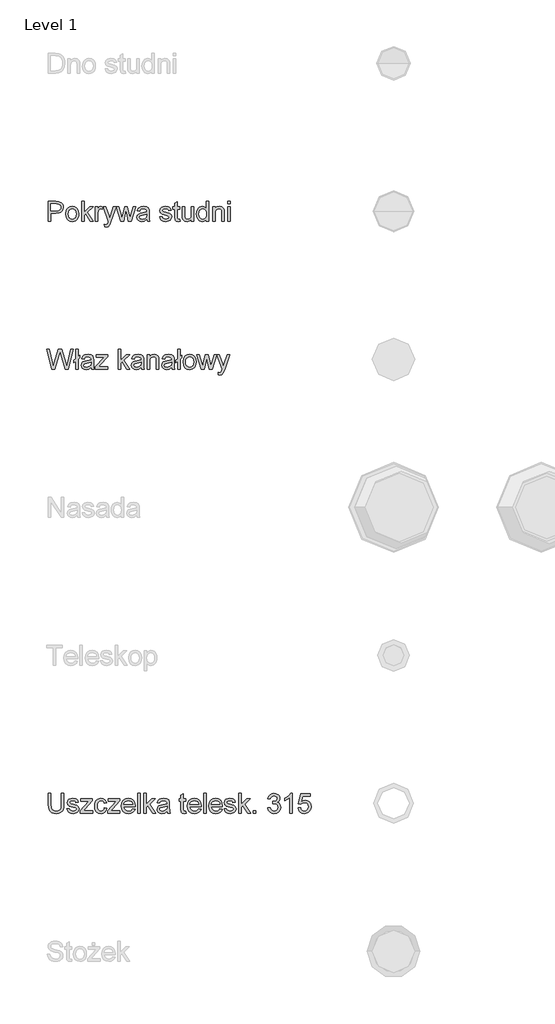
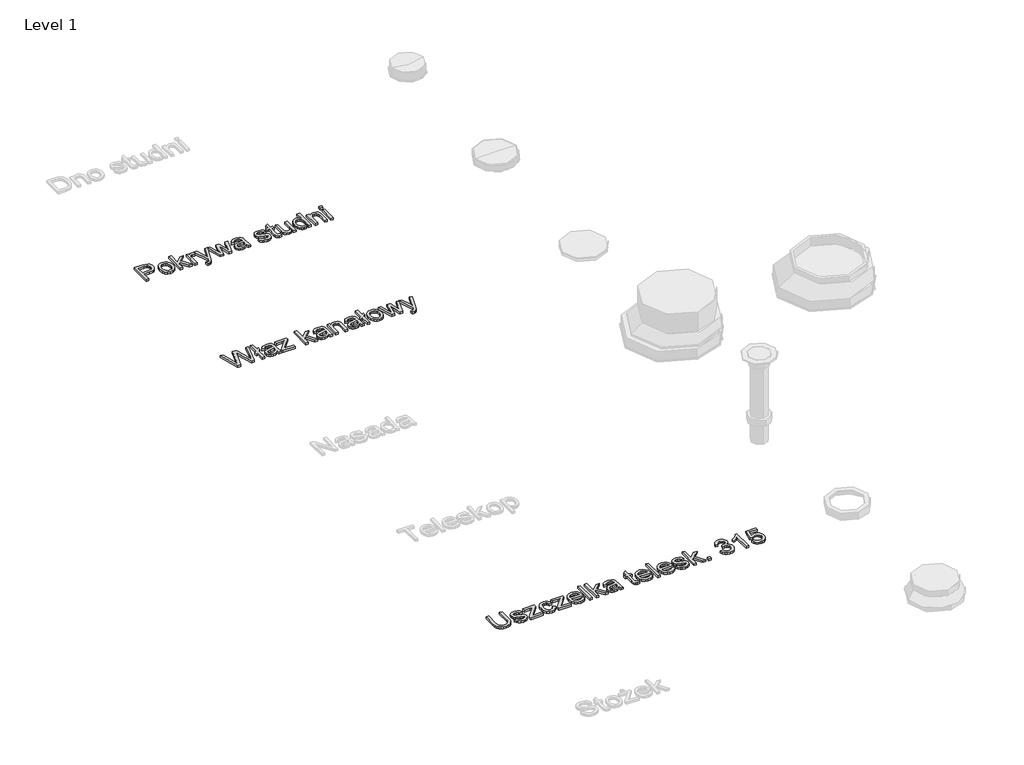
# One storey, part 3 of 8: 3 proxies.
"""IFC4 building model written with IfcOpenShell, lengths in millimetres."""

from ifc_helpers import new_model, si_unit, origin, origin_with_axes, place, context, project, spatial, polyline, outline, extrude, element, save

model = new_model("IFC4")

# Units and contexts
model_context = context("Model", 3, world=origin())
ifc_project = project(units=[si_unit("LENGTHUNIT", "METRE", prefix="MILLI")], contexts=[model_context])

# Site, building, storey
site = spatial("IfcSite", under=ifc_project)
building = spatial("IfcBuilding", under=site)
storey = spatial("IfcBuildingStorey", under=building, Name="Level 1", Elevation=0.0)

# Proxies
placement = place(None, origin())
element("IfcBuildingElementProxy", 1, Name="200mm Arial", ObjectType="200mm Arial", at=placement, inside=storey, context=model_context, shape_type="SweptSolid", body=[
    extrude(outline(polyline([(-16830.6923074, -17513.949573), (-16830.6923074, -17313.0369527), (-16756.2329915, -17313.0369527), (-16726.2138207, -17314.949939), (-16701.8109817, -17324.3431926), (-16692.9388943, -17332.6695885), (-16685.9920559, -17343.767362), (-16681.5038956, -17356.8578296), (-16680.0078421, -17371.1623079), (-16684.0484127, -17394.8416456), (-16696.1701245, -17414.5723833), (-16705.8776106, -17422.3408248), (-16718.8377867, -17427.8897115), (-16754.5162089, -17432.328821), (-16805.5782298, -17432.328821), (-16805.5782298, -17513.949573), (-16830.6923074, -17513.949573)]), holes=[polyline([(-16805.5782298, -17407.2147434), (-16753.0446809, -17407.2147434), (-16730.7755575, -17404.9093496), (-16716.0602777, -17397.9931681), (-16707.8565092, -17386.8953946), (-16705.1219197, -17372.0452247), (-16706.7344691, -17360.7635102), (-16711.5721173, -17351.2476292), (-16719.0339905, -17344.086193), (-16728.5192146, -17339.8678128), (-16753.6332921, -17338.1510302), (-16805.5782298, -17338.1510302), (-16805.5782298, -17407.2147434)])]), origin_with_axes(), (0.0, 0.0, 1.0), 20.0),
    extrude(outline(polyline([(-16654.8937646, -17440.1769702), (-16649.4613738, -17404.6027813), (-16642.6708853, -17390.7796153), (-16633.1642014, -17379.5990683), (-16613.0287936, -17367.3485979), (-16588.9202601, -17363.2651077), (-16562.5369897, -17368.237646), (-16541.4634828, -17383.1552609), (-16527.6495138, -17406.8407301), (-16523.0448575, -17438.116831), (-16525.0804712, -17463.4884259), (-16531.1873124, -17482.8022307), (-16541.1875713, -17497.2661245), (-16554.9034383, -17508.0879865), (-16571.1944793, -17514.8386211), (-16588.9202601, -17517.0888326), (-16615.6223616, -17512.1346884), (-16636.6713431, -17497.2722558), (-16650.3381592, -17473.090146), (-16654.8937646, -17440.1769702)]), holes=[polyline([(-16629.7796871, -17440.1279193), (-16626.8734193, -17462.8568952), (-16618.154616, -17479.0498343), (-16605.0334915, -17488.7435249), (-16588.9202601, -17491.9747551), (-16572.8806052, -17488.7251308), (-16559.7840061, -17478.9762579), (-16551.0652028, -17462.568721), (-16548.1589351, -17439.3431043), (-16551.0835969, -17417.276316), (-16559.8575825, -17401.304106), (-16572.9725756, -17391.6104155), (-16588.9202601, -17388.3791853), (-16605.0334915, -17391.5981527), (-16618.154616, -17401.2550551), (-16626.8734193, -17417.4112061), (-16629.7796871, -17440.1279193)])]), origin_with_axes(), (0.0, 0.0, 1.0), 20.0),
    extrude(outline(polyline([(-16494.7915203, -17513.949573), (-16494.7915203, -17313.0369527), (-16469.6774428, -17313.0369527), (-16469.6774428, -17420.9980555), (-16413.366972, -17366.4043674), (-16378.6389117, -17366.4043674), (-16435.6360955, -17421.6847686), (-16375.499652, -17513.949573), (-16404.8321098, -17513.949573), (-16453.6377878, -17439.1469006), (-16469.6774428, -17454.6960463), (-16469.6774428, -17513.949573), (-16494.7915203, -17513.949573)])), origin_with_axes(), (0.0, 0.0, 1.0), 20.0),
    extrude(outline(polyline([(-16353.5248342, -17513.949573), (-16353.5248342, -17366.4043674), (-16331.5500163, -17366.4043674), (-16331.5500163, -17388.2320325), (-16315.9518197, -17368.1211501), (-16300.2555213, -17363.2651077), (-16287.7475334, -17365.2026196), (-16275.0433419, -17371.0151551), (-16283.4310513, -17393.5295332), (-16301.0893871, -17388.3791853), (-16315.2896321, -17393.3333295), (-16324.3395292, -17407.0675906), (-16328.4107566, -17436.4000484), (-16328.4107566, -17513.949573), (-16353.5248342, -17513.949573)])), origin_with_axes(), (0.0, 0.0, 1.0), 20.0),
    extrude(outline(polyline([(-16259.3470434, -17570.4562474), (-16262.4863031, -17546.2741376), (-16249.7330606, -17548.4814296), (-16237.8136839, -17545.7100519), (-16230.505095, -17537.98453), (-16223.6379644, -17519.4923283), (-16221.6759271, -17513.4100127), (-16275.0433419, -17366.4043674), (-16248.5558382, -17366.4043674), (-16220.25345, -17448.319425), (-16210.3942126, -17481.0854481), (-16200.5349751, -17452.1453978), (-16171.447772, -17366.4043674), (-16145.1564721, -17366.4043674), (-16196.5127986, -17517.4812401), (-16209.8546523, -17550.2472631), (-16224.4227793, -17567.9546498), (-16243.9941015, -17573.5955071), (-16259.3470434, -17570.4562474)])), origin_with_axes(), (0.0, 0.0, 1.0), 20.0),
    extrude(outline(polyline([(-16099.8824612, -17513.949573), (-16144.7640646, -17366.4043674), (-16118.6689684, -17366.4043674), (-16093.2115344, -17452.4887543), (-16085.6086398, -17483.2436891), (-16079.3791714, -17453.6169257), (-16059.1211362, -17366.4043674), (-16029.2000672, -17366.4043674), (-16009.0401339, -17453.3716711), (-16003.4973785, -17480.2025313), (-15995.5511274, -17451.9001431), (-15970.0446424, -17366.4043674), (-15943.8514443, -17366.4043674), (-15989.0764043, -17513.949573), (-16019.4389316, -17513.949573), (-16038.7159482, -17427.4237277), (-16044.3077545, -17400.4457147), (-16069.1765774, -17513.949573), (-16099.8824612, -17513.949573)])), origin_with_axes(), (0.0, 0.0, 1.0), 20.0),
    extrude(outline(polyline([(-15832.4077253, -17495.1140148), (-15856.7615133, -17512.1346884), (-15883.6659499, -17517.0888326), (-15904.6536177, -17514.1089885), (-15920.1353184, -17505.169456), (-15929.6818562, -17491.5946104), (-15932.8640354, -17474.7088268), (-15928.057044, -17454.8431991), (-15915.4264288, -17440.4222249), (-15897.8416695, -17432.1816682), (-15876.1121063, -17428.4047463), (-15832.5548781, -17419.7717822), (-15832.4077253, -17414.1799759), (-15834.1367706, -17402.9718377), (-15839.3239068, -17395.6387233), (-15850.9244523, -17390.1940698), (-15867.0867347, -17388.3791853), (-15882.0472691, -17389.5870645), (-15892.4951178, -17393.2107021), (-15899.6197658, -17399.9122858), (-15904.6106982, -17410.3540031), (-15929.7247757, -17407.2147434), (-15918.8599941, -17382.6892771), (-15909.6016306, -17374.4364576), (-15896.9832781, -17368.3173538), (-15863.8493731, -17363.2651077), (-15833.4132694, -17367.7287426), (-15816.2209175, -17378.9368807), (-15808.519921, -17395.9820798), (-15807.2936477, -17417.9568977), (-15807.2936477, -17449.2023418), (-15806.0183235, -17492.8331464), (-15801.0151283, -17513.949573), (-15826.1292059, -17513.949573), (-15832.4077253, -17495.1140148)]), holes=[polyline([(-15832.4077253, -17444.8858597), (-15872.9237957, -17452.5868562), (-15894.5307315, -17456.6580836), (-15904.3163926, -17463.2799595), (-15907.7499579, -17472.9429932), (-15905.8798911, -17480.4109977), (-15900.2696906, -17486.5301016), (-15891.0419839, -17490.6135917), (-15878.3193983, -17491.9747551), (-15864.8303918, -17490.4725703), (-15852.9110151, -17485.9660159), (-15836.5280036, -17471.4224143), (-15832.5548781, -17451.998245), (-15832.4077253, -17444.8858597)])]), origin_with_axes(), (0.0, 0.0, 1.0), 20.0),
    extrude(outline(polyline([(-15703.6980779, -17469.9999373), (-15678.5840003, -17466.8606776), (-15674.6231375, -17477.6028318), (-15666.9589293, -17485.500032), (-15655.5423247, -17490.3560743), (-15640.3242728, -17491.9747551), (-15625.290162, -17490.4909644), (-15614.719686, -17486.0395923), (-15608.4656921, -17479.5893946), (-15606.3810274, -17472.1091274), (-15608.4779548, -17465.7079807), (-15614.7687369, -17460.8274129), (-15640.6185784, -17453.6659767), (-15678.4368475, -17441.378718), (-15688.0079108, -17435.2044319), (-15694.9424864, -17427.0313202), (-15700.5588182, -17406.773285), (-15696.0461324, -17388.0603542), (-15683.7343483, -17373.7620073), (-15667.7682697, -17366.330791), (-15646.1613338, -17363.2651077), (-15615.6026028, -17368.1947265), (-15604.1737355, -17373.9949993), (-15596.1784334, -17381.5365802), (-15587.5454693, -17404.0754837), (-15612.6595468, -17407.2147434), (-15615.8294633, -17399.3114119), (-15622.1018513, -17393.3578549), (-15644.1992965, -17388.3791853), (-15658.6202707, -17389.5686704), (-15668.2342535, -17393.1371257), (-15673.6421189, -17398.2874737), (-15675.4447407, -17404.2226365), (-15672.4526338, -17411.5312255), (-15663.0839056, -17417.0739809), (-15641.4524443, -17422.4205326), (-15604.5906684, -17434.2418073), (-15587.4718929, -17447.632712), (-15582.8181856, -17457.4796867), (-15581.2669499, -17469.460377), (-15583.0879658, -17481.8457375), (-15588.5510134, -17493.495334), (-15597.4476263, -17503.4955929), (-15609.569338, -17510.9329406), (-15624.2110415, -17515.5498596), (-15640.6676294, -17517.0888326), (-15665.9901734, -17514.1212512), (-15684.4701123, -17505.2185069), (-15696.8064218, -17490.4787017), (-15703.6980779, -17469.9999373)])), origin_with_axes(), (0.0, 0.0, 1.0), 20.0),
    extrude(outline(polyline([(-15499.6461979, -17493.0048247), (-15496.5069382, -17514.6853369), (-15515.2934454, -17517.0888326), (-15536.3362955, -17512.9195034), (-15546.8331951, -17501.9811454), (-15549.874353, -17473.4825535), (-15549.874353, -17391.518445), (-15568.7099111, -17391.518445), (-15568.7099111, -17366.4043674), (-15549.874353, -17366.4043674), (-15549.874353, -17330.5481356), (-15524.7602754, -17315.7838049), (-15524.7602754, -17366.4043674), (-15499.6461979, -17366.4043674), (-15499.6461979, -17391.518445), (-15524.7602754, -17391.518445), (-15524.7602754, -17472.7467895), (-15523.4359002, -17485.6962357), (-15519.1439436, -17490.2824979), (-15510.5845559, -17491.9747551), (-15499.6461979, -17493.0048247)])), origin_with_axes(), (0.0, 0.0, 1.0), 20.0),
    extrude(outline(polyline([(-15380.3543296, -17513.949573), (-15380.3543296, -17488.5902408), (-15389.4410149, -17501.0583747), (-15400.0237536, -17509.9641847), (-15412.1025458, -17515.3076707), (-15425.6773914, -17517.0888326), (-15449.2954155, -17512.0856375), (-15465.5803251, -17499.5285987), (-15473.0605924, -17481.0363971), (-15474.5321204, -17457.6881532), (-15474.5321204, -17366.4043674), (-15449.4180428, -17366.4043674), (-15449.4180428, -17445.8668784), (-15447.8974639, -17471.4714652), (-15444.237038, -17480.0124589), (-15437.96465, -17486.5055761), (-15419.2517192, -17491.9747551), (-15398.2824455, -17486.3829488), (-15389.9253928, -17479.779467), (-15384.425557, -17471.1526342), (-15380.3543296, -17443.1690771), (-15380.3543296, -17366.4043674), (-15355.240252, -17366.4043674), (-15355.240252, -17513.949573), (-15380.3543296, -17513.949573)])), origin_with_axes(), (0.0, 0.0, 1.0), 20.0),
    extrude(outline(polyline([(-15229.6698644, -17513.949573), (-15229.6698644, -17490.2579725), (-15237.1838541, -17501.9964738), (-15246.2858678, -17510.3811176), (-15256.9759055, -17515.4119039), (-15269.253967, -17517.0888326), (-15285.4898258, -17514.6608115), (-15300.3522584, -17507.376748), (-15312.9338226, -17495.7455456), (-15322.3270762, -17480.2761077), (-15328.1763999, -17461.5938337), (-15330.1261745, -17440.324123), (-15328.3296841, -17419.3180611), (-15322.9402129, -17400.3476128), (-15313.9638922, -17384.4918989), (-15301.4068534, -17372.8300396), (-15286.2194584, -17365.6563407), (-15269.3520689, -17363.2651077), (-15257.0648103, -17364.975759), (-15246.2000287, -17370.1077128), (-15229.6698644, -17387.8886759), (-15229.6698644, -17313.0369527), (-15204.5557868, -17313.0369527), (-15204.5557868, -17513.949573), (-15229.6698644, -17513.949573)]), holes=[polyline([(-15305.012097, -17440.2260211), (-15302.1794056, -17462.9427343), (-15293.6813315, -17479.0988853), (-15281.3327592, -17488.7557877), (-15266.9485732, -17491.9747551), (-15252.5705186, -17488.9029404), (-15240.534646, -17479.6874965), (-15232.3860598, -17464.1567449), (-15229.6698644, -17442.1390075), (-15232.4351107, -17418.0672623), (-15240.7308497, -17401.3776824), (-15253.0732906, -17391.6288096), (-15267.9786428, -17388.3791853), (-15282.5099816, -17391.5000509), (-15294.4170955, -17400.8626476), (-15302.3633466, -17416.9452222), (-15305.012097, -17440.2260211)])]), origin_with_axes(), (0.0, 0.0, 1.0), 20.0),
    extrude(outline(polyline([(-15166.8846705, -17513.949573), (-15166.8846705, -17366.4043674), (-15141.770593, -17366.4043674), (-15141.770593, -17387.0057592), (-15133.0456583, -17376.6192242), (-15122.5671528, -17369.2002706), (-15110.3350765, -17364.7488984), (-15096.3494293, -17363.2651077), (-15072.6333034, -17368.0475737), (-15056.4464956, -17380.6046124), (-15048.9171774, -17399.0722886), (-15047.5928022, -17423.3525003), (-15047.5928022, -17513.949573), (-15072.7068798, -17513.949573), (-15072.7068798, -17426.7370146), (-15075.6008848, -17404.5169421), (-15085.8280042, -17392.7692437), (-15103.0694071, -17388.3791853), (-15117.7785555, -17390.8439946), (-15130.3172002, -17398.2384227), (-15138.9072448, -17412.5245069), (-15141.770593, -17435.6642844), (-15141.770593, -17513.949573), (-15166.8846705, -17513.949573)])), origin_with_axes(), (0.0, 0.0, 1.0), 20.0),
    extrude(outline(polyline([(-15013.0609456, -17338.1510302), (-15013.0609456, -17313.0369527), (-14987.9468681, -17313.0369527), (-14987.9468681, -17338.1510302), (-15013.0609456, -17338.1510302)])), origin_with_axes(), (0.0, 0.0, 1.0), 20.0),
    extrude(outline(polyline([(-15013.0609456, -17513.949573), (-15013.0609456, -17366.4043674), (-14987.9468681, -17366.4043674), (-14987.9468681, -17513.949573), (-15013.0609456, -17513.949573)])), origin_with_axes(), (0.0, 0.0, 1.0), 20.0),
])
element("IfcBuildingElementProxy", 2, Name="200mm Arial", ObjectType="200mm Arial", at=placement, inside=storey, context=model_context, shape_type="SweptSolid", body=[
    extrude(outline(polyline([(-16794.7379737, -19013.949573), (-16849.5278655, -18813.0369527), (-16823.6289731, -18813.0369527), (-16791.8439687, -18945.0820635), (-16782.0337821, -18985.8433885), (-16771.5368825, -18949.790953), (-16731.7075252, -18813.0369527), (-16694.3797654, -18813.0369527), (-16665.4397151, -18912.1688876), (-16643.9063557, -18985.8433885), (-16634.3904747, -18946.2592858), (-16602.3111648, -18813.0369527), (-16576.4122723, -18813.0369527), (-16631.2512151, -19013.949573), (-16658.0820752, -19013.949573), (-16706.2500911, -18858.9486257), (-16712.9700689, -18837.3171643), (-16720.5239125, -18863.3632096), (-16764.4244973, -19013.949573), (-16794.7379737, -19013.949573)])), origin_with_axes(), (0.0, 0.0, 1.0), 20.0),
    extrude(outline(polyline([(-16554.4374545, -18934.5361129), (-16573.2730126, -18949.5947493), (-16573.2730126, -18921.341412), (-16554.4374545, -18906.2827757), (-16554.4374545, -18813.0369527), (-16529.3233769, -18813.0369527), (-16529.3233769, -18886.1718933), (-16510.4878188, -18871.113257), (-16510.4878188, -18899.3665942), (-16529.3233769, -18914.4252305), (-16529.3233769, -19013.949573), (-16554.4374545, -19013.949573), (-16554.4374545, -18934.5361129)])), origin_with_axes(), (0.0, 0.0, 1.0), 20.0),
    extrude(outline(polyline([(-16397.4744699, -18995.1140148), (-16421.8282579, -19012.1346884), (-16448.7326945, -19017.0888326), (-16469.7203623, -19014.1089885), (-16485.202063, -19005.169456), (-16494.7486007, -18991.5946104), (-16497.93078, -18974.7088268), (-16493.1237886, -18954.8431991), (-16480.4931734, -18940.4222249), (-16462.9084141, -18932.1816682), (-16441.1788509, -18928.4047463), (-16397.6216226, -18919.7717822), (-16397.4744699, -18914.1799759), (-16399.2035152, -18902.9718377), (-16404.3906514, -18895.6387233), (-16415.9911969, -18890.1940698), (-16432.1534793, -18888.3791853), (-16447.1140137, -18889.5870645), (-16457.5618624, -18893.2107021), (-16464.6865104, -18899.9122858), (-16469.6774428, -18910.3540031), (-16494.7915203, -18907.2147434), (-16483.9267387, -18882.6892771), (-16474.6683752, -18874.4364576), (-16462.0500227, -18868.3173538), (-16428.9161177, -18863.2651077), (-16398.480014, -18867.7287426), (-16381.2876621, -18878.9368807), (-16373.5866656, -18895.9820798), (-16372.3603923, -18917.9568977), (-16372.3603923, -18949.2023418), (-16371.0850681, -18992.8331464), (-16366.0818729, -19013.949573), (-16391.1959505, -19013.949573), (-16397.4744699, -18995.1140148)]), holes=[polyline([(-16397.4744699, -18944.8858597), (-16437.9905403, -18952.5868562), (-16459.5974761, -18956.6580836), (-16469.3831372, -18963.2799595), (-16472.8167025, -18972.9429932), (-16470.9466357, -18980.4109977), (-16465.3364352, -18986.5301016), (-16456.1087285, -18990.6135917), (-16443.3861428, -18991.9747551), (-16429.8971364, -18990.4725703), (-16417.9777597, -18985.9660159), (-16401.5947482, -18971.4224143), (-16397.6216226, -18951.998245), (-16397.4744699, -18944.8858597)])]), origin_with_axes(), (0.0, 0.0, 1.0), 20.0),
    extrude(outline(polyline([(-16353.5248342, -19013.949573), (-16353.5248342, -18990.3070234), (-16266.8518361, -18891.518445), (-16292.5054739, -18891.518445), (-16347.2463148, -18891.518445), (-16347.2463148, -18866.4043674), (-16231.0937062, -18866.4043674), (-16231.0937062, -18887.7415231), (-16307.9565177, -18975.3955399), (-16319.7287415, -18988.8354954), (-16290.6905894, -18988.8354954), (-16227.9544465, -18988.8354954), (-16227.9544465, -19013.949573), (-16353.5248342, -19013.949573)])), origin_with_axes(), (0.0, 0.0, 1.0), 20.0),
    extrude(outline(polyline([(-16124.3588766, -19013.949573), (-16124.3588766, -18813.0369527), (-16099.2447991, -18813.0369527), (-16099.2447991, -18920.9980555), (-16042.9343284, -18866.4043674), (-16008.206268, -18866.4043674), (-16065.2034518, -18921.6847686), (-16005.0670083, -19013.949573), (-16034.3994661, -19013.949573), (-16083.2051441, -18939.1469006), (-16099.2447991, -18954.6960463), (-16099.2447991, -19013.949573), (-16124.3588766, -19013.949573)])), origin_with_axes(), (0.0, 0.0, 1.0), 20.0),
    extrude(outline(polyline([(-15888.9143997, -18995.1140148), (-15913.2681878, -19012.1346884), (-15940.1726244, -19017.0888326), (-15961.1602922, -19014.1089885), (-15976.6419928, -19005.169456), (-15986.1885306, -18991.5946104), (-15989.3707099, -18974.7088268), (-15984.5637185, -18954.8431991), (-15971.9331033, -18940.4222249), (-15954.3483439, -18932.1816682), (-15932.6187807, -18928.4047463), (-15889.0615525, -18919.7717822), (-15888.9143997, -18914.1799759), (-15890.6434451, -18902.9718377), (-15895.8305812, -18895.6387233), (-15907.4311268, -18890.1940698), (-15923.5934091, -18888.3791853), (-15938.5539436, -18889.5870645), (-15949.0017923, -18893.2107021), (-15956.1264402, -18899.9122858), (-15961.1173726, -18910.3540031), (-15986.2314502, -18907.2147434), (-15975.3666686, -18882.6892771), (-15966.108305, -18874.4364576), (-15953.4899526, -18868.3173538), (-15920.3560476, -18863.2651077), (-15889.9199438, -18867.7287426), (-15872.7275919, -18878.9368807), (-15865.0265955, -18895.9820798), (-15863.8003222, -18917.9568977), (-15863.8003222, -18949.2023418), (-15862.5249979, -18992.8331464), (-15857.5218028, -19013.949573), (-15882.6358803, -19013.949573), (-15888.9143997, -18995.1140148)]), holes=[polyline([(-15888.9143997, -18944.8858597), (-15929.4304701, -18952.5868562), (-15951.037406, -18956.6580836), (-15960.823067, -18963.2799595), (-15964.2566323, -18972.9429932), (-15962.3865655, -18980.4109977), (-15956.7763651, -18986.5301016), (-15947.5486584, -18990.6135917), (-15934.8260727, -18991.9747551), (-15921.3370662, -18990.4725703), (-15909.4176896, -18985.9660159), (-15893.0346781, -18971.4224143), (-15889.0615525, -18951.998245), (-15888.9143997, -18944.8858597)])]), origin_with_axes(), (0.0, 0.0, 1.0), 20.0),
    extrude(outline(polyline([(-15829.2684656, -19013.949573), (-15829.2684656, -18866.4043674), (-15804.154388, -18866.4043674), (-15804.154388, -18887.0057592), (-15795.4294534, -18876.6192242), (-15784.9509479, -18869.2002706), (-15772.7188715, -18864.7488984), (-15758.7332244, -18863.2651077), (-15735.0170984, -18868.0475737), (-15718.8302906, -18880.6046124), (-15711.3009724, -18899.0722886), (-15709.9765973, -18923.3525003), (-15709.9765973, -19013.949573), (-15735.0906748, -19013.949573), (-15735.0906748, -18926.7370146), (-15737.9846798, -18904.5169421), (-15748.2117993, -18892.7692437), (-15765.4532021, -18888.3791853), (-15780.1623506, -18890.8439946), (-15792.7009952, -18898.2384227), (-15801.2910398, -18912.5245069), (-15804.154388, -18935.6642844), (-15804.154388, -19013.949573), (-15829.2684656, -19013.949573)])), origin_with_axes(), (0.0, 0.0, 1.0), 20.0),
    extrude(outline(polyline([(-15581.2669499, -18995.1140148), (-15605.620738, -19012.1346884), (-15632.5251745, -19017.0888326), (-15653.5128424, -19014.1089885), (-15668.994543, -19005.169456), (-15678.5410808, -18991.5946104), (-15681.72326, -18974.7088268), (-15676.9162686, -18954.8431991), (-15664.2856535, -18940.4222249), (-15646.7008941, -18932.1816682), (-15624.9713309, -18928.4047463), (-15581.4141027, -18919.7717822), (-15581.2669499, -18914.1799759), (-15582.9959953, -18902.9718377), (-15588.1831314, -18895.6387233), (-15599.783677, -18890.1940698), (-15615.9459593, -18888.3791853), (-15630.9064938, -18889.5870645), (-15641.3543424, -18893.2107021), (-15648.4789904, -18899.9122858), (-15653.4699228, -18910.3540031), (-15678.5840003, -18907.2147434), (-15667.7192188, -18882.6892771), (-15658.4608552, -18874.4364576), (-15645.8425028, -18868.3173538), (-15612.7085977, -18863.2651077), (-15582.272494, -18867.7287426), (-15565.0801421, -18878.9368807), (-15557.3791457, -18895.9820798), (-15556.1528723, -18917.9568977), (-15556.1528723, -18949.2023418), (-15554.8775481, -18992.8331464), (-15549.874353, -19013.949573), (-15574.9884305, -19013.949573), (-15581.2669499, -18995.1140148)]), holes=[polyline([(-15581.2669499, -18944.8858597), (-15621.7830203, -18952.5868562), (-15643.3899561, -18956.6580836), (-15653.1756172, -18963.2799595), (-15656.6091825, -18972.9429932), (-15654.7391157, -18980.4109977), (-15649.1289153, -18986.5301016), (-15639.9012085, -18990.6135917), (-15627.1786229, -18991.9747551), (-15613.6896164, -18990.4725703), (-15601.7702397, -18985.9660159), (-15585.3872282, -18971.4224143), (-15581.4141027, -18951.998245), (-15581.2669499, -18944.8858597)])]), origin_with_axes(), (0.0, 0.0, 1.0), 20.0),
    extrude(outline(polyline([(-15521.6210157, -18934.5361129), (-15540.4565739, -18949.5947493), (-15540.4565739, -18921.341412), (-15521.6210157, -18906.2827757), (-15521.6210157, -18813.0369527), (-15496.5069382, -18813.0369527), (-15496.5069382, -18886.1718933), (-15477.67138, -18871.113257), (-15477.67138, -18899.3665942), (-15496.5069382, -18914.4252305), (-15496.5069382, -19013.949573), (-15521.6210157, -19013.949573), (-15521.6210157, -18934.5361129)])), origin_with_axes(), (0.0, 0.0, 1.0), 20.0),
    extrude(outline(polyline([(-15465.1143413, -18940.1769702), (-15459.6819505, -18904.6027813), (-15452.891462, -18890.7796153), (-15443.3847781, -18879.5990683), (-15423.2493702, -18867.3485979), (-15399.1408368, -18863.2651077), (-15372.7575664, -18868.237646), (-15351.6840594, -18883.1552609), (-15337.8700905, -18906.8407301), (-15333.2654342, -18938.116831), (-15335.3010479, -18963.4884259), (-15341.407889, -18982.8022307), (-15351.4081479, -18997.2661245), (-15365.124015, -19008.0879865), (-15381.415056, -19014.8386211), (-15399.1408368, -19017.0888326), (-15425.8429383, -19012.1346884), (-15446.8919198, -18997.2722558), (-15460.5587359, -18973.090146), (-15465.1143413, -18940.1769702)]), holes=[polyline([(-15440.0002637, -18940.1279193), (-15437.093996, -18962.8568952), (-15428.3751927, -18979.0498343), (-15415.2540682, -18988.7435249), (-15399.1408368, -18991.9747551), (-15383.1011818, -18988.7251308), (-15370.0045828, -18978.9762579), (-15361.2857795, -18962.568721), (-15358.3795117, -18939.3431043), (-15361.3041736, -18917.276316), (-15370.0781592, -18901.304106), (-15383.1931523, -18891.6104155), (-15399.1408368, -18888.3791853), (-15415.2540682, -18891.5981527), (-15428.3751927, -18901.2550551), (-15437.093996, -18917.4112061), (-15440.0002637, -18940.1279193)])]), origin_with_axes(), (0.0, 0.0, 1.0), 20.0),
    extrude(outline(polyline([(-15280.5356816, -19013.949573), (-15325.417285, -18866.4043674), (-15299.3221888, -18866.4043674), (-15273.8647547, -18952.4887543), (-15266.2618601, -18983.2436891), (-15260.0323917, -18953.6169257), (-15239.7743565, -18866.4043674), (-15209.8532876, -18866.4043674), (-15189.6933542, -18953.3716711), (-15184.1505988, -18980.2025313), (-15176.2043477, -18951.9001431), (-15150.6978627, -18866.4043674), (-15124.5046647, -18866.4043674), (-15169.7296246, -19013.949573), (-15200.0921519, -19013.949573), (-15219.3691685, -18927.4237277), (-15224.9609748, -18900.4457147), (-15249.8297977, -19013.949573), (-15280.5356816, -19013.949573)])), origin_with_axes(), (0.0, 0.0, 1.0), 20.0),
    extrude(outline(polyline([(-15107.2387364, -19070.4562474), (-15110.3779961, -19046.2741376), (-15097.6247536, -19048.4814296), (-15085.7053769, -19045.7100519), (-15078.3967879, -19037.98453), (-15071.5296574, -19019.4923283), (-15069.5676201, -19013.4100127), (-15122.9350348, -18866.4043674), (-15096.4475312, -18866.4043674), (-15068.145143, -18948.319425), (-15058.2859055, -18981.0854481), (-15048.4266681, -18952.1453978), (-15019.339465, -18866.4043674), (-14993.0481651, -18866.4043674), (-15044.4044916, -19017.4812401), (-15057.7463453, -19050.2472631), (-15072.3144723, -19067.9546498), (-15091.8857944, -19073.5955071), (-15107.2387364, -19070.4562474)])), origin_with_axes(), (0.0, 0.0, 1.0), 20.0),
])
element("IfcBuildingElementProxy", 3, Name="200mm Arial", ObjectType="200mm Arial", at=placement, inside=storey, context=model_context, shape_type="SweptSolid", body=[
    extrude(outline(polyline([(-16698.8434003, -23313.0369527), (-16673.7293228, -23313.0369527), (-16673.7293228, -23428.9443066), (-16675.4338427, -23456.0878665), (-16680.5474024, -23476.9896952), (-16690.1000715, -23493.1151893), (-16705.1219197, -23505.9297455), (-16725.649735, -23514.2990608), (-16751.7203057, -23517.0888326), (-16777.2206594, -23514.6608115), (-16797.6074533, -23507.376748), (-16812.8868188, -23495.4880282), (-16823.0648873, -23479.2460381), (-16828.7854524, -23457.4612926), (-16830.6923074, -23428.9443066), (-16830.6923074, -23313.0369527), (-16805.5782298, -23313.0369527), (-16805.5782298, -23428.0613898), (-16804.3396938, -23450.6309502), (-16800.6240856, -23466.3456428), (-16793.8918451, -23477.2288185), (-16783.603412, -23485.3038283), (-16770.1879819, -23490.3070234), (-16754.0747505, -23491.9747551), (-16728.5314773, -23488.6760799), (-16711.5475919, -23478.7800542), (-16702.0194482, -23459.5030377), (-16698.8434003, -23428.0613898), (-16698.8434003, -23313.0369527)])), origin_with_axes(), (0.0, 0.0, 1.0), 20.0),
    extrude(outline(polyline([(-16642.3367258, -23469.9999373), (-16617.2226483, -23466.8606776), (-16613.2617855, -23477.6028318), (-16605.5975773, -23485.500032), (-16594.1809727, -23490.3560743), (-16578.9629208, -23491.9747551), (-16563.9288099, -23490.4909644), (-16553.3583339, -23486.0395923), (-16547.10434, -23479.5893946), (-16545.0196754, -23472.1091274), (-16547.1166028, -23465.7079807), (-16553.4073849, -23460.8274129), (-16579.2572264, -23453.6659767), (-16617.0754955, -23441.378718), (-16626.6465587, -23435.2044319), (-16633.5811344, -23427.0313202), (-16639.1974661, -23406.773285), (-16634.6847803, -23388.0603542), (-16622.3729962, -23373.7620073), (-16606.4069176, -23366.330791), (-16584.7999818, -23363.2651077), (-16554.2412507, -23368.1947265), (-16542.8123834, -23373.9949993), (-16534.8170814, -23381.5365802), (-16526.1841172, -23404.0754837), (-16551.2981948, -23407.2147434), (-16554.4681113, -23399.3114119), (-16560.7404993, -23393.3578549), (-16582.8379445, -23388.3791853), (-16597.2589187, -23389.5686704), (-16606.8729015, -23393.1371257), (-16612.2807668, -23398.2874737), (-16614.0833886, -23404.2226365), (-16611.0912817, -23411.5312255), (-16601.7225536, -23417.0739809), (-16580.0910923, -23422.4205326), (-16543.2293163, -23434.2418073), (-16526.1105408, -23447.632712), (-16521.4568336, -23457.4796867), (-16519.9055978, -23469.460377), (-16521.7266137, -23481.8457375), (-16527.1896613, -23493.495334), (-16536.0862743, -23503.4955929), (-16548.207986, -23510.9329406), (-16562.8496894, -23515.5498596), (-16579.3062773, -23517.0888326), (-16604.6288213, -23514.1212512), (-16623.1087602, -23505.2185069), (-16635.4450698, -23490.4787017), (-16642.3367258, -23469.9999373)])), origin_with_axes(), (0.0, 0.0, 1.0), 20.0),
    extrude(outline(polyline([(-16507.3485591, -23513.949573), (-16507.3485591, -23490.3070234), (-16420.675561, -23391.518445), (-16446.3291988, -23391.518445), (-16501.0700397, -23391.518445), (-16501.0700397, -23366.4043674), (-16384.9174311, -23366.4043674), (-16384.9174311, -23387.7415231), (-16461.7802426, -23475.3955399), (-16473.5524665, -23488.8354954), (-16444.5143143, -23488.8354954), (-16381.7781714, -23488.8354954), (-16381.7781714, -23513.949573), (-16507.3485591, -23513.949573)])), origin_with_axes(), (0.0, 0.0, 1.0), 20.0),
    extrude(outline(polyline([(-16262.4863031, -23460.5821582), (-16237.3722255, -23463.7214179), (-16244.3742462, -23486.0579864), (-16257.5321589, -23502.9376386), (-16275.6074276, -23513.5510341), (-16297.3615162, -23517.0888326), (-16324.0758804, -23512.1530825), (-16344.9654464, -23497.3458322), (-16358.4483215, -23473.3170066), (-16362.9426132, -23440.7165304), (-16361.0234955, -23418.3676992), (-16355.2661423, -23398.9987122), (-16345.5785831, -23383.357596), (-16331.8688474, -23372.1923775), (-16315.4674418, -23365.4969252), (-16297.7048728, -23363.2651077), (-16276.484213, -23366.330791), (-16259.5187217, -23375.5278409), (-16247.347959, -23390.365748), (-16240.5114852, -23410.3540031), (-16265.6255628, -23413.4932628), (-16270.1811682, -23402.5365107), (-16277.2751593, -23394.6822301), (-16286.5151287, -23389.9549465), (-16297.508669, -23388.3791853), (-16313.7383964, -23391.4816568), (-16326.6203976, -23400.7890712), (-16335.0265012, -23416.8042008), (-16337.8285357, -23440.0298174), (-16335.0878148, -23463.5681337), (-16326.8656522, -23479.6384455), (-16314.216643, -23488.8906777), (-16298.1953821, -23491.9747551), (-16285.1907536, -23490.049506), (-16274.5283071, -23484.2737587), (-16266.7721283, -23474.5003603), (-16262.4863031, -23460.5821582)])), origin_with_axes(), (0.0, 0.0, 1.0), 20.0),
    extrude(outline(polyline([(-16231.0937062, -23513.949573), (-16231.0937062, -23490.3070234), (-16144.4207081, -23391.518445), (-16170.0743459, -23391.518445), (-16224.8151868, -23391.518445), (-16224.8151868, -23366.4043674), (-16108.6625782, -23366.4043674), (-16108.6625782, -23387.7415231), (-16185.5253897, -23475.3955399), (-16197.2976135, -23488.8354954), (-16168.2594614, -23488.8354954), (-16105.5233185, -23488.8354954), (-16105.5233185, -23513.949573), (-16231.0937062, -23513.949573)])), origin_with_axes(), (0.0, 0.0, 1.0), 20.0),
    extrude(outline(polyline([(-15977.1079767, -23469.9999373), (-15952.4844085, -23473.139197), (-15961.3564959, -23491.6927122), (-15975.5138214, -23505.5618635), (-15994.6375538, -23514.2070904), (-16018.408862, -23517.0888326), (-16047.8762098, -23512.1162943), (-16070.5500035, -23497.1986794), (-16085.0077659, -23473.3047439), (-16089.82702, -23441.4032435), (-16084.9587149, -23408.428754), (-16070.3537997, -23383.7683976), (-16047.9865744, -23368.3909302), (-16019.8313391, -23363.2651077), (-15992.5528891, -23368.3786675), (-15970.7558809, -23383.7193467), (-15956.4636654, -23408.3306521), (-15951.6995936, -23441.2560907), (-15951.8467464, -23448.0251194), (-16064.7129425, -23448.0251194), (-16060.3658036, -23466.8238894), (-16050.2674428, -23480.6439897), (-16035.6931844, -23489.1420637), (-16017.9183527, -23491.9747551), (-15993.2947845, -23486.7263053), (-15984.1467855, -23479.9204884), (-15977.1079767, -23469.9999373)]), holes=[polyline([(-16064.7129425, -23422.9110419), (-15976.8136711, -23422.9110419), (-15980.2104482, -23409.6427646), (-15986.8691123, -23400.1514091), (-16001.5108157, -23391.3222412), (-16019.9294409, -23388.3791853), (-16036.8581441, -23390.7274987), (-16050.856054, -23397.7724389), (-16060.5865328, -23408.7537164), (-16064.7129425, -23422.9110419)])]), origin_with_axes(), (0.0, 0.0, 1.0), 20.0),
    extrude(outline(polyline([(-15926.585516, -23513.949573), (-15926.585516, -23313.0369527), (-15901.4714385, -23313.0369527), (-15901.4714385, -23513.949573), (-15926.585516, -23513.949573)])), origin_with_axes(), (0.0, 0.0, 1.0), 20.0),
    extrude(outline(polyline([(-15863.8003222, -23513.949573), (-15863.8003222, -23313.0369527), (-15838.6862446, -23313.0369527), (-15838.6862446, -23420.9980555), (-15782.3757739, -23366.4043674), (-15747.6477136, -23366.4043674), (-15804.6448974, -23421.6847686), (-15744.5084539, -23513.949573), (-15773.8409116, -23513.949573), (-15822.6465897, -23439.1469006), (-15838.6862446, -23454.6960463), (-15838.6862446, -23513.949573), (-15863.8003222, -23513.949573)])), origin_with_axes(), (0.0, 0.0, 1.0), 20.0),
    extrude(outline(polyline([(-15628.3558453, -23495.1140148), (-15652.7096333, -23512.1346884), (-15679.6140699, -23517.0888326), (-15700.6017378, -23514.1089885), (-15716.0834384, -23505.169456), (-15725.6299762, -23491.5946104), (-15728.8121554, -23474.7088268), (-15724.005164, -23454.8431991), (-15711.3745488, -23440.4222249), (-15693.7897895, -23432.1816682), (-15672.0602263, -23428.4047463), (-15628.5029981, -23419.7717822), (-15628.3558453, -23414.1799759), (-15630.0848906, -23402.9718377), (-15635.2720268, -23395.6387233), (-15646.8725724, -23390.1940698), (-15663.0348547, -23388.3791853), (-15677.9953892, -23389.5870645), (-15688.4432378, -23393.2107021), (-15695.5678858, -23399.9122858), (-15700.5588182, -23410.3540031), (-15725.6728957, -23407.2147434), (-15714.8081141, -23382.6892771), (-15705.5497506, -23374.4364576), (-15692.9313982, -23368.3173538), (-15659.7974931, -23363.2651077), (-15629.3613894, -23367.7287426), (-15612.1690375, -23378.9368807), (-15604.468041, -23395.9820798), (-15603.2417677, -23417.9568977), (-15603.2417677, -23449.2023418), (-15601.9664435, -23492.8331464), (-15596.9632483, -23513.949573), (-15622.0773259, -23513.949573), (-15628.3558453, -23495.1140148)]), holes=[polyline([(-15628.3558453, -23444.8858597), (-15668.8719157, -23452.5868562), (-15690.4788515, -23456.6580836), (-15700.2645126, -23463.2799595), (-15703.6980779, -23472.9429932), (-15701.8280111, -23480.4109977), (-15696.2178106, -23486.5301016), (-15686.9901039, -23490.6135917), (-15674.2675183, -23491.9747551), (-15660.7785118, -23490.4725703), (-15648.8591351, -23485.9660159), (-15632.4761236, -23471.4224143), (-15628.5029981, -23451.998245), (-15628.3558453, -23444.8858597)])]), origin_with_axes(), (0.0, 0.0, 1.0), 20.0),
    extrude(outline(polyline([(-15436.861004, -23493.0048247), (-15433.7217444, -23514.6853369), (-15452.5082516, -23517.0888326), (-15473.5511017, -23512.9195034), (-15484.0480013, -23501.9811454), (-15487.0891591, -23473.4825535), (-15487.0891591, -23391.518445), (-15505.9247173, -23391.518445), (-15505.9247173, -23366.4043674), (-15487.0891591, -23366.4043674), (-15487.0891591, -23330.5481356), (-15461.9750816, -23315.7838049), (-15461.9750816, -23366.4043674), (-15436.861004, -23366.4043674), (-15436.861004, -23391.518445), (-15461.9750816, -23391.518445), (-15461.9750816, -23472.7467895), (-15460.6507064, -23485.6962357), (-15456.3587498, -23490.2824979), (-15447.799362, -23491.9747551), (-15436.861004, -23493.0048247)])), origin_with_axes(), (0.0, 0.0, 1.0), 20.0),
    extrude(outline(polyline([(-15308.4456623, -23469.9999373), (-15283.8220941, -23473.139197), (-15292.6941815, -23491.6927122), (-15306.8515069, -23505.5618635), (-15325.9752393, -23514.2070904), (-15349.7465476, -23517.0888326), (-15379.2138954, -23512.1162943), (-15401.887689, -23497.1986794), (-15416.3454514, -23473.3047439), (-15421.1647056, -23441.4032435), (-15416.2964005, -23408.428754), (-15401.6914853, -23383.7683976), (-15379.32426, -23368.3909302), (-15351.1690246, -23363.2651077), (-15323.8905747, -23368.3786675), (-15302.0935665, -23383.7193467), (-15287.801351, -23408.3306521), (-15283.0372791, -23441.2560907), (-15283.1844319, -23448.0251194), (-15396.050628, -23448.0251194), (-15391.7034891, -23466.8238894), (-15381.6051284, -23480.6439897), (-15367.03087, -23489.1420637), (-15349.2560383, -23491.9747551), (-15324.63247, -23486.7263053), (-15315.4844711, -23479.9204884), (-15308.4456623, -23469.9999373)]), holes=[polyline([(-15396.050628, -23422.9110419), (-15308.1513567, -23422.9110419), (-15311.5481338, -23409.6427646), (-15318.2067979, -23400.1514091), (-15332.8485013, -23391.3222412), (-15351.2671265, -23388.3791853), (-15368.1958296, -23390.7274987), (-15382.1937396, -23397.7724389), (-15391.9242183, -23408.7537164), (-15396.050628, -23422.9110419)])]), origin_with_axes(), (0.0, 0.0, 1.0), 20.0),
    extrude(outline(polyline([(-15257.9232016, -23513.949573), (-15257.9232016, -23313.0369527), (-15232.8091241, -23313.0369527), (-15232.8091241, -23513.949573), (-15257.9232016, -23513.949573)])), origin_with_axes(), (0.0, 0.0, 1.0), 20.0),
    extrude(outline(polyline([(-15091.8367435, -23469.9999373), (-15067.2131753, -23473.139197), (-15076.0852627, -23491.6927122), (-15090.2425882, -23505.5618635), (-15109.3663206, -23514.2070904), (-15133.1376288, -23517.0888326), (-15162.6049766, -23512.1162943), (-15185.2787703, -23497.1986794), (-15199.7365327, -23473.3047439), (-15204.5557868, -23441.4032435), (-15199.6874818, -23408.428754), (-15185.0825665, -23383.7683976), (-15162.7153412, -23368.3909302), (-15134.5601059, -23363.2651077), (-15107.2816559, -23368.3786675), (-15085.4846477, -23383.7193467), (-15071.1924322, -23408.3306521), (-15066.4283604, -23441.2560907), (-15066.5755132, -23448.0251194), (-15179.4417093, -23448.0251194), (-15175.0945704, -23466.8238894), (-15164.9962096, -23480.6439897), (-15150.4219512, -23489.1420637), (-15132.6471195, -23491.9747551), (-15108.0235513, -23486.7263053), (-15098.8755523, -23479.9204884), (-15091.8367435, -23469.9999373)]), holes=[polyline([(-15179.4417093, -23422.9110419), (-15091.5424379, -23422.9110419), (-15094.939215, -23409.6427646), (-15101.5978791, -23400.1514091), (-15116.2395825, -23391.3222412), (-15134.6582077, -23388.3791853), (-15151.5869109, -23390.7274987), (-15165.5848208, -23397.7724389), (-15175.3152996, -23408.7537164), (-15179.4417093, -23422.9110419)])]), origin_with_axes(), (0.0, 0.0, 1.0), 20.0),
    extrude(outline(polyline([(-15050.7320619, -23469.9999373), (-15025.6179844, -23466.8606776), (-15021.6571216, -23477.6028318), (-15013.9929133, -23485.500032), (-15002.5763087, -23490.3560743), (-14987.3582569, -23491.9747551), (-14972.324146, -23490.4909644), (-14961.75367, -23486.0395923), (-14955.4996761, -23479.5893946), (-14953.4150114, -23472.1091274), (-14955.5119388, -23465.7079807), (-14961.8027209, -23460.8274129), (-14987.6525625, -23453.6659767), (-15025.4708316, -23441.378718), (-15035.0418948, -23435.2044319), (-15041.9764704, -23427.0313202), (-15047.5928022, -23406.773285), (-15043.0801164, -23388.0603542), (-15030.7683323, -23373.7620073), (-15014.8022537, -23366.330791), (-14993.1953179, -23363.2651077), (-14962.6365868, -23368.1947265), (-14951.2077195, -23373.9949993), (-14943.2124175, -23381.5365802), (-14934.5794533, -23404.0754837), (-14959.6935308, -23407.2147434), (-14962.8634474, -23399.3114119), (-14969.1358354, -23393.3578549), (-14991.2332806, -23388.3791853), (-15005.6542548, -23389.5686704), (-15015.2682376, -23393.1371257), (-15020.6761029, -23398.2874737), (-15022.4787247, -23404.2226365), (-15019.4866178, -23411.5312255), (-15010.1178896, -23417.0739809), (-14988.4864283, -23422.4205326), (-14951.6246524, -23434.2418073), (-14934.5058769, -23447.632712), (-14929.8521697, -23457.4796867), (-14928.3009339, -23469.460377), (-14930.1219498, -23481.8457375), (-14935.5849974, -23493.495334), (-14944.4816103, -23503.4955929), (-14956.6033221, -23510.9329406), (-14971.2450255, -23515.5498596), (-14987.7016134, -23517.0888326), (-15013.0241574, -23514.1212512), (-15031.5040963, -23505.2185069), (-15043.8404059, -23490.4787017), (-15050.7320619, -23469.9999373)])), origin_with_axes(), (0.0, 0.0, 1.0), 20.0),
    extrude(outline(polyline([(-14900.0475967, -23513.949573), (-14900.0475967, -23313.0369527), (-14874.9335191, -23313.0369527), (-14874.9335191, -23420.9980555), (-14818.6230484, -23366.4043674), (-14783.8949881, -23366.4043674), (-14840.8921719, -23421.6847686), (-14780.7557284, -23513.949573), (-14810.0881861, -23513.949573), (-14858.8938642, -23439.1469006), (-14874.9335191, -23454.6960463), (-14874.9335191, -23513.949573), (-14900.0475967, -23513.949573)])), origin_with_axes(), (0.0, 0.0, 1.0), 20.0),
    extrude(outline(polyline([(-14752.5023912, -23513.949573), (-14752.5023912, -23488.8354954), (-14727.3883136, -23488.8354954), (-14727.3883136, -23513.949573), (-14752.5023912, -23513.949573)])), origin_with_axes(), (0.0, 0.0, 1.0), 20.0),
    extrude(outline(polyline([(-14608.0964453, -23460.5821582), (-14582.9823678, -23457.4428985), (-14577.3599046, -23473.2250361), (-14569.1254793, -23483.8813512), (-14557.8744216, -23489.9514041), (-14543.2020614, -23491.9747551), (-14525.985184, -23489.1911147), (-14512.6923812, -23480.8401934), (-14504.1943071, -23468.3812565), (-14501.3616158, -23453.2735692), (-14504.1697817, -23438.9323028), (-14512.5942794, -23427.3011004), (-14525.3475219, -23419.5939726), (-14541.1419222, -23417.02493), (-14558.751207, -23419.7717822), (-14555.9553039, -23394.6577047), (-14551.9331274, -23394.9520102), (-14536.8867538, -23393.1493885), (-14523.4345355, -23387.7415231), (-14513.94318, -23378.5935242), (-14510.7793949, -23365.5705016), (-14513.072526, -23354.7241141), (-14519.9519193, -23345.925603), (-14530.4488189, -23340.0946734), (-14543.5944688, -23338.1510302), (-14556.7646443, -23340.1130675), (-14567.531324, -23345.9991794), (-14575.3917359, -23355.809366), (-14579.8431081, -23369.5436271), (-14604.9571856, -23366.4043674), (-14597.5627575, -23343.8532011), (-14584.4048448, -23327.0164685), (-14566.4031525, -23316.5318316), (-14544.4773856, -23313.0369527), (-14528.6891167, -23314.7598667), (-14514.1884347, -23319.9286087), (-14501.9624897, -23328.0833263), (-14492.9984318, -23338.7641669), (-14487.4985959, -23351.0698196), (-14485.6653173, -23364.0989736), (-14487.4066254, -23376.2390794), (-14492.6305498, -23387.2510138), (-14501.2635139, -23396.6320047), (-14513.2319415, -23403.87928), (-14497.5111176, -23410.2313758), (-14485.861521, -23421.0471064), (-14478.6510339, -23435.7378608), (-14476.2475382, -23453.7150276), (-14481.0545296, -23478.191443), (-14495.4755039, -23498.645682), (-14517.2418552, -23512.478045), (-14544.0849781, -23517.0888326), (-14568.3651898, -23513.1524953), (-14588.1327157, -23501.3434833), (-14601.8792396, -23483.2804773), (-14608.0964453, -23460.5821582)])), origin_with_axes(), (0.0, 0.0, 1.0), 20.0),
    extrude(outline(polyline([(-14360.0949296, -23513.949573), (-14385.2090072, -23513.949573), (-14385.2090072, -23357.3789958), (-14408.9987095, -23374.3260931), (-14435.4371622, -23387.0057592), (-14435.4371622, -23363.2651077), (-14398.6244373, -23339.769711), (-14385.1538249, -23326.1948653), (-14376.2817374, -23313.0369527), (-14360.0949296, -23313.0369527), (-14360.0949296, -23513.949573)])), origin_with_axes(), (0.0, 0.0, 1.0), 20.0),
    extrude(outline(polyline([(-14300.4489955, -23460.5821582), (-14275.3349179, -23457.4428985), (-14270.7241303, -23472.5199289), (-14262.6797773, -23483.3172655), (-14251.2386473, -23489.8103827), (-14236.4375283, -23491.9747551), (-14218.435836, -23488.9642541), (-14204.9468295, -23479.9327511), (-14196.5223318, -23465.9225785), (-14193.7141659, -23447.9760685), (-14196.3445222, -23431.0780222), (-14204.235591, -23418.1531014), (-14217.448686, -23409.9493329), (-14236.0451209, -23407.2147434), (-14258.0935151, -23411.5802764), (-14272.1956582, -23422.9110419), (-14297.3097358, -23419.7717822), (-14275.3349179, -23316.1762123), (-14178.0178675, -23316.1762123), (-14178.0178675, -23341.2902899), (-14255.0278318, -23341.2902899), (-14265.7699861, -23396.619742), (-14247.8296074, -23385.7304349), (-14229.0308375, -23382.1006659), (-14205.5660976, -23386.601089), (-14186.0867459, -23400.1023582), (-14172.9717528, -23420.6792244), (-14168.6000884, -23446.4064386), (-14172.5364258, -23471.5205162), (-14184.3454378, -23493.0048247), (-14194.7810237, -23503.5415782), (-14206.9579178, -23511.0678307), (-14220.8761199, -23515.5835821), (-14236.5356302, -23517.0888326), (-14261.202118, -23513.2199403), (-14280.8531479, -23501.6132634), (-14294.3237603, -23483.6177025), (-14300.4489955, -23460.5821582)])), origin_with_axes(), (0.0, 0.0, 1.0), 20.0),
])

save(model, "model.ifc")
